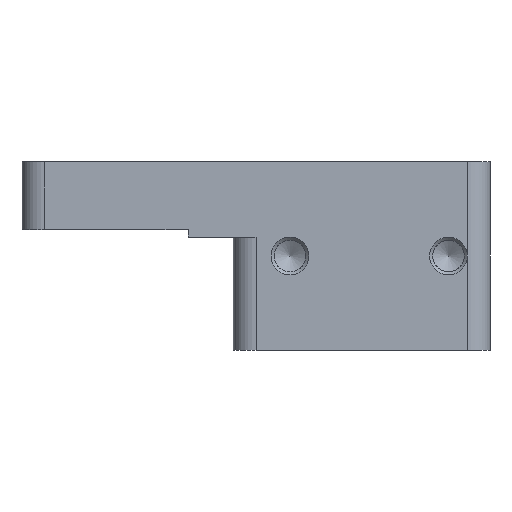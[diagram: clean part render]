
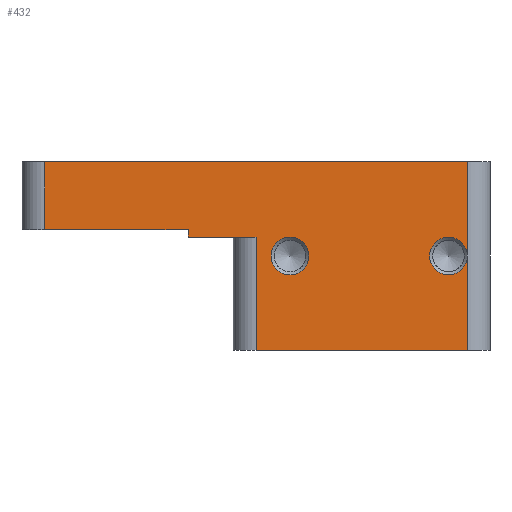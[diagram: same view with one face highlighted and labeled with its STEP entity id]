
A CAD part, left-side view. The second image highlights one B-rep face of the part: STEP entity #432.
In plain terms, the highlighted planar face has unit normal (-1, 0, 0).
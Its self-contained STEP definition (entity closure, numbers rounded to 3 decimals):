
#137=PLANE('',#1592);
#176=FACE_BOUND('',#589,.T.);
#177=FACE_BOUND('',#590,.T.);
#262=LINE('',#2246,#343);
#268=LINE('',#2347,#349);
#269=LINE('',#2350,#350);
#270=LINE('',#2352,#351);
#271=LINE('',#2354,#352);
#272=LINE('',#2356,#353);
#273=LINE('',#2359,#354);
#274=LINE('',#2360,#355);
#275=LINE('',#2362,#356);
#343=VECTOR('',#1740,1.);
#349=VECTOR('',#1762,1.);
#350=VECTOR('',#1763,1.);
#351=VECTOR('',#1764,1.);
#352=VECTOR('',#1765,1.);
#353=VECTOR('',#1766,1.);
#354=VECTOR('',#1769,1.);
#355=VECTOR('',#1770,1.);
#356=VECTOR('',#1771,1.);
#432=ADVANCED_FACE('',(#176,#177),#137,.T.);
#589=EDGE_LOOP('',(#819,#820,#821,#822,#823,#824,#825,#826,#827,#828));
#590=EDGE_LOOP('',(#829));
#715=CIRCLE('',#1590,2.5);
#716=CIRCLE('',#1591,2.5);
#819=ORIENTED_EDGE('',*,*,#1356,.F.);
#820=ORIENTED_EDGE('',*,*,#1357,.F.);
#821=ORIENTED_EDGE('',*,*,#1358,.T.);
#822=ORIENTED_EDGE('',*,*,#1359,.T.);
#823=ORIENTED_EDGE('',*,*,#1360,.T.);
#824=ORIENTED_EDGE('',*,*,#1361,.T.);
#825=ORIENTED_EDGE('',*,*,#1362,.T.);
#826=ORIENTED_EDGE('',*,*,#1331,.T.);
#827=ORIENTED_EDGE('',*,*,#1363,.T.);
#828=ORIENTED_EDGE('',*,*,#1364,.F.);
#829=ORIENTED_EDGE('',*,*,#1365,.T.);
#1189=VERTEX_POINT('',#2245);
#1190=VERTEX_POINT('',#2247);
#1213=VERTEX_POINT('',#2348);
#1214=VERTEX_POINT('',#2349);
#1215=VERTEX_POINT('',#2351);
#1216=VERTEX_POINT('',#2353);
#1217=VERTEX_POINT('',#2355);
#1218=VERTEX_POINT('',#2357);
#1219=VERTEX_POINT('',#2361);
#1220=VERTEX_POINT('',#2364);
#1331=EDGE_CURVE('',#1190,#1189,#262,.T.);
#1356=EDGE_CURVE('',#1213,#1214,#268,.T.);
#1357=EDGE_CURVE('',#1215,#1213,#269,.T.);
#1358=EDGE_CURVE('',#1215,#1216,#270,.T.);
#1359=EDGE_CURVE('',#1216,#1217,#271,.T.);
#1360=EDGE_CURVE('',#1217,#1218,#272,.T.);
#1361=EDGE_CURVE('',#1218,#1218,#715,.T.);
#1362=EDGE_CURVE('',#1218,#1190,#273,.T.);
#1363=EDGE_CURVE('',#1189,#1219,#274,.T.);
#1364=EDGE_CURVE('',#1214,#1219,#275,.T.);
#1365=EDGE_CURVE('',#1220,#1220,#716,.T.);
#1590=AXIS2_PLACEMENT_3D('',#2358,#1767,#1768);
#1591=AXIS2_PLACEMENT_3D('',#2363,#1772,#1773);
#1592=AXIS2_PLACEMENT_3D('',#2365,#1774,#1775);
#1740=DIRECTION('',(0.,1.,0.));
#1762=DIRECTION('',(0.,0.,1.));
#1763=DIRECTION('',(0.,1.,0.));
#1764=DIRECTION('',(0.,0.,-1.));
#1765=DIRECTION('',(0.,-1.,0.));
#1766=DIRECTION('',(0.,0.,1.));
#1767=DIRECTION('',(1.,0.,0.));
#1768=DIRECTION('',(0.,0.,1.));
#1769=DIRECTION('',(0.,0.,1.));
#1770=DIRECTION('',(0.,0.,-1.));
#1771=DIRECTION('',(0.,1.,0.));
#1772=DIRECTION('',(1.,0.,0.));
#1773=DIRECTION('',(0.,0.,1.));
#1774=DIRECTION('',(-1.,0.,0.));
#1775=DIRECTION('',(0.,0.,1.));
#2245=CARTESIAN_POINT('',(0.,59.,25.));
#2246=CARTESIAN_POINT('',(0.,17.,25.));
#2247=CARTESIAN_POINT('',(0.,3.,25.));
#2347=CARTESIAN_POINT('',(0.,40.,0.));
#2348=CARTESIAN_POINT('',(0.,40.,15.));
#2349=CARTESIAN_POINT('',(0.,40.,16.));
#2350=CARTESIAN_POINT('',(0.,34.,15.));
#2351=CARTESIAN_POINT('',(0.,31.,15.));
#2352=CARTESIAN_POINT('',(0.,31.,0.));
#2353=CARTESIAN_POINT('',(0.,31.,0.));
#2354=CARTESIAN_POINT('',(0.,17.,0.));
#2355=CARTESIAN_POINT('',(0.,3.,0.));
#2356=CARTESIAN_POINT('',(0.,3.,0.));
#2357=CARTESIAN_POINT('',(0.,3.,12.5));
#2358=CARTESIAN_POINT('',(0.,5.5,12.5));
#2359=CARTESIAN_POINT('',(0.,3.,0.));
#2360=CARTESIAN_POINT('',(0.,59.,0.));
#2361=CARTESIAN_POINT('',(0.,59.,16.));
#2362=CARTESIAN_POINT('',(0.,17.,16.));
#2363=CARTESIAN_POINT('',(0.,26.5,12.5));
#2364=CARTESIAN_POINT('',(0.,26.5,15.));
#2365=CARTESIAN_POINT('',(0.,17.,0.));
